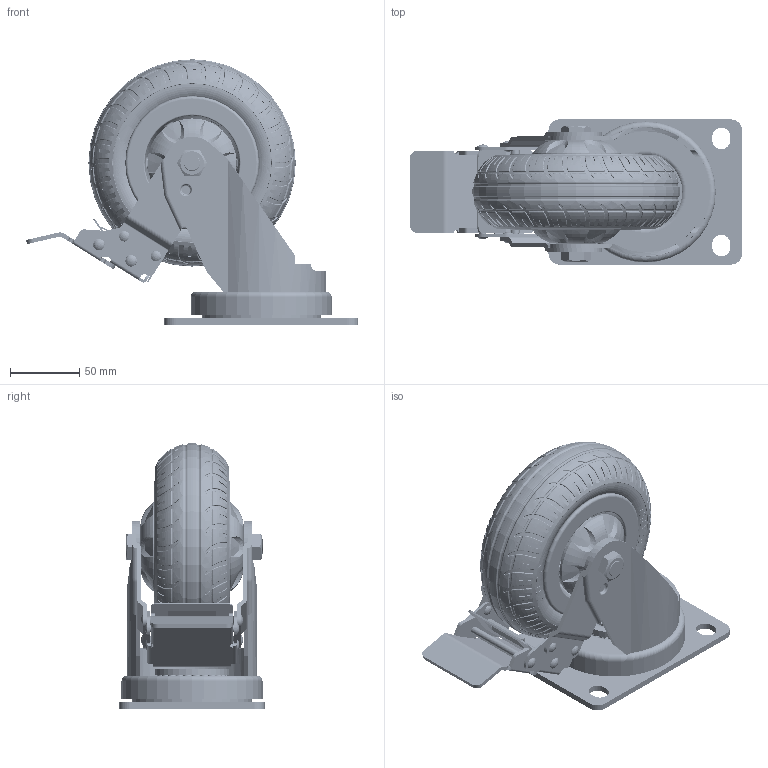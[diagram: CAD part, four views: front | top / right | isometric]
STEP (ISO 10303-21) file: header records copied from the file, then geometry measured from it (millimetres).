
FILE_DESCRIPTION((''),'2;1');
FILE_NAME('J28-01B-150-542_ASM','2024-09-19T',('xxy'),(''),'PRO/ENGINEER BY PARAMETRIC TECHNOLOGY CORPORATION, 2010280','PRO/ENGINEER BY PARAMETRIC TECHNOLOGY CORPORATION, 2010280','');
FILE_SCHEMA(('CONFIG_CONTROL_DESIGN'));
Products named in the file (47): HDDB_AF0; ZC111_AF0; ZC222_AF0; ZC333_AF0; ZC1_AF0_ASM; PMZCP_AF0; QQQ_AF0; XBP_AF0; HDZJ11_AF0; 4CUN__AF0; 6FGHY__AF0; ZC62021__AF0; ZC62020__AF0; GZ62022__AF0; ZC62023__AF0; ZC62024__AF0; ZC62024__AF1; 6202__AF0_ASM; ZC62021__AF1; ZC62020__AF1; GZ62022__AF1; ZC62023__AF1; ZC62024__AF2; ZC62024__AF3; 6202__AF1_ASM; GT__AF0; BJ__AF0; BJ__AF1; 777_AF0; 777_AF1; LS-150_AF0; WL_AF0_ASM; LS_AF0; LM; ZF; DSZZB_AF0; 968-DSGDB_AF0; 968-DSSB_AF0; 28610WD_AF0; TP-15_AF0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
Assembly tree (46 placements, depth 4):
  J28-01B-150-542_ASM
    HDDB_AF0
    ZC1_AF0_ASM
      ZC111_AF0
      ZC222_AF0
      ZC333_AF0
    PMZCP_AF0
    QQQ_AF0
    XBP_AF0
    HDZJ11_AF0
    WL_AF0_ASM
      4CUN__AF0
      6FGHY__AF0
      6202__AF0_ASM
        ZC62021__AF0
        ZC62020__AF0
        GZ62022__AF0
        ZC62023__AF0
        ZC62024__AF0
        ZC62024__AF1
      6202__AF1_ASM
        ZC62021__AF1
        ZC62020__AF1
        GZ62022__AF1
        ZC62023__AF1
        ZC62024__AF2
        ZC62024__AF3
      GT__AF0
      BJ__AF0
      BJ__AF1
      777_AF0
      777_AF1
      LS-150_AF0
    LS_AF0
    LM
    ZF
    DSZZB_AF0
    968-DSGDB_AF0
    968-DSSB_AF0
    28610WD_AF0
    TP-15_AF0
    MD-01_AF2
    MD-01_AF3
    MD-01_AF0
    MD-01_AF1
    MD-02_AF0
    MD-02_AF1
Bounding box: 240.14 x 105 x 191.98 mm (x, y, z)
Volume: 1024873.5 mm3; surface area: 380498.3 mm2
Topology: 100 solids, 101 shells, 4863 faces, 12148 edges, 7256 vertices
Faces by surface type: bspline 1221, cylinder 905, plane 896, torus 784, sphere 388, cone 337, extrusion 320, revolution 12
Entity records: 218932 total; most frequent: CARTESIAN_POINT 116383, ORIENTED_EDGE 23748, DIRECTION 17715, EDGE_CURVE 11874, AXIS2_PLACEMENT_3D 7567, VERTEX_POINT 7256, B_SPLINE_CURVE_WITH_KNOTS 5818, EDGE_LOOP 5036
